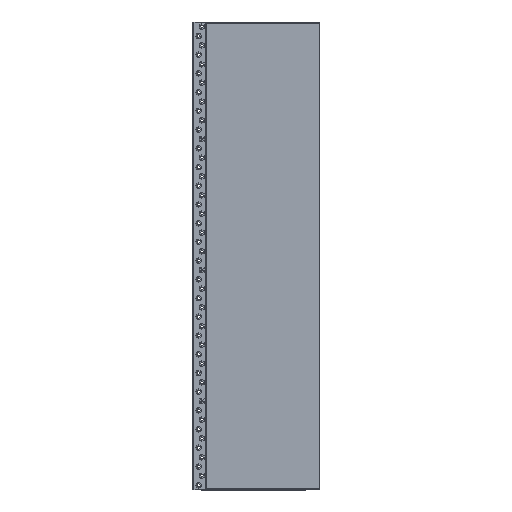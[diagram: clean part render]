
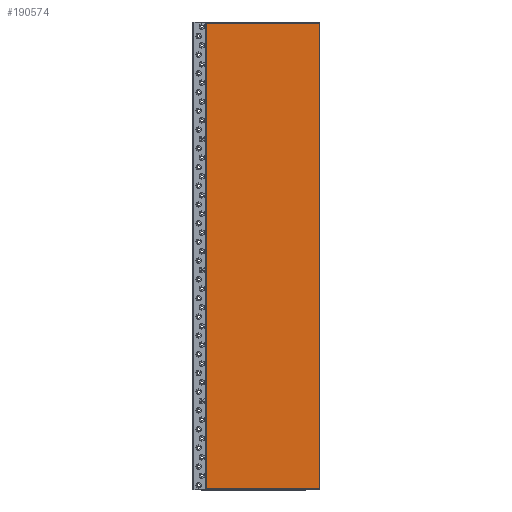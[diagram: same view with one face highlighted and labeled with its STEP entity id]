
A CAD part, top view. The second image highlights one B-rep face of the part: STEP entity #190574.
In plain terms, the highlighted planar face has unit normal (0, 0, 1).
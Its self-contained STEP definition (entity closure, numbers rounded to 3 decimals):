
#190260 = VERTEX_POINT('',#190261);
#190261 = CARTESIAN_POINT('',(8876.603,3003.,
    0.));
#190268 = PLANE('',#190269);
#190269 = AXIS2_PLACEMENT_3D('',#190270,#190271,#190272);
#190270 = CARTESIAN_POINT('',(8876.603,3003.,
    -25.));
#190271 = DIRECTION('',(0.,1.,0.));
#190272 = DIRECTION('',(1.,0.,0.));
#190280 = PLANE('',#190281);
#190281 = AXIS2_PLACEMENT_3D('',#190282,#190283,#190284);
#190282 = CARTESIAN_POINT('',(8876.603,3997.,
    -25.));
#190283 = DIRECTION('',(1.,0.,0.));
#190284 = DIRECTION('',(0.,-1.,0.));
#190292 = EDGE_CURVE('',#190260,#190293,#190295,.T.);
#190293 = VERTEX_POINT('',#190294);
#190294 = CARTESIAN_POINT('',(9118.103,3003.,
    0.));
#190295 = SURFACE_CURVE('',#190296,(#190300,#190307),.PCURVE_S1.);
#190296 = LINE('',#190297,#190298);
#190297 = CARTESIAN_POINT('',(8876.603,3003.,
    0.));
#190298 = VECTOR('',#190299,1.);
#190299 = DIRECTION('',(1.,0.,0.));
#190300 = PCURVE('',#190268,#190301);
#190301 = DEFINITIONAL_REPRESENTATION('',(#190302),#190306);
#190302 = LINE('',#190303,#190304);
#190303 = CARTESIAN_POINT('',(0.,-25.));
#190304 = VECTOR('',#190305,1.);
#190305 = DIRECTION('',(1.,0.));
#190306 = ( GEOMETRIC_REPRESENTATION_CONTEXT(2) 
PARAMETRIC_REPRESENTATION_CONTEXT() REPRESENTATION_CONTEXT('2D SPACE',''
  ) );
#190307 = PCURVE('',#190308,#190313);
#190308 = PLANE('',#190309);
#190309 = AXIS2_PLACEMENT_3D('',#190310,#190311,#190312);
#190310 = CARTESIAN_POINT('',(8997.353,3500.,
    0.));
#190311 = DIRECTION('',(0.,0.,1.));
#190312 = DIRECTION('',(1.,0.,0.));
#190313 = DEFINITIONAL_REPRESENTATION('',(#190314),#190318);
#190314 = LINE('',#190315,#190316);
#190315 = CARTESIAN_POINT('',(-120.75,-497.));
#190316 = VECTOR('',#190317,1.);
#190317 = DIRECTION('',(1.,0.));
#190318 = ( GEOMETRIC_REPRESENTATION_CONTEXT(2) 
PARAMETRIC_REPRESENTATION_CONTEXT() REPRESENTATION_CONTEXT('2D SPACE',''
  ) );
#190336 = PLANE('',#190337);
#190337 = AXIS2_PLACEMENT_3D('',#190338,#190339,#190340);
#190338 = CARTESIAN_POINT('',(9118.103,3003.,
    -25.));
#190339 = DIRECTION('',(-1.,0.,0.));
#190340 = DIRECTION('',(0.,1.,0.));
#190378 = EDGE_CURVE('',#190293,#190379,#190381,.T.);
#190379 = VERTEX_POINT('',#190380);
#190380 = CARTESIAN_POINT('',(9118.103,3997.,
    0.));
#190381 = SURFACE_CURVE('',#190382,(#190386,#190393),.PCURVE_S1.);
#190382 = LINE('',#190383,#190384);
#190383 = CARTESIAN_POINT('',(9118.103,3003.,
    0.));
#190384 = VECTOR('',#190385,1.);
#190385 = DIRECTION('',(0.,1.,0.));
#190386 = PCURVE('',#190336,#190387);
#190387 = DEFINITIONAL_REPRESENTATION('',(#190388),#190392);
#190388 = LINE('',#190389,#190390);
#190389 = CARTESIAN_POINT('',(0.,-25.));
#190390 = VECTOR('',#190391,1.);
#190391 = DIRECTION('',(1.,0.));
#190392 = ( GEOMETRIC_REPRESENTATION_CONTEXT(2) 
PARAMETRIC_REPRESENTATION_CONTEXT() REPRESENTATION_CONTEXT('2D SPACE',''
  ) );
#190393 = PCURVE('',#190308,#190394);
#190394 = DEFINITIONAL_REPRESENTATION('',(#190395),#190399);
#190395 = LINE('',#190396,#190397);
#190396 = CARTESIAN_POINT('',(120.75,-497.));
#190397 = VECTOR('',#190398,1.);
#190398 = DIRECTION('',(0.,1.));
#190399 = ( GEOMETRIC_REPRESENTATION_CONTEXT(2) 
PARAMETRIC_REPRESENTATION_CONTEXT() REPRESENTATION_CONTEXT('2D SPACE',''
  ) );
#190417 = PLANE('',#190418);
#190418 = AXIS2_PLACEMENT_3D('',#190419,#190420,#190421);
#190419 = CARTESIAN_POINT('',(9118.103,3997.,
    -25.));
#190420 = DIRECTION('',(0.,-1.,0.));
#190421 = DIRECTION('',(-1.,0.,0.));
#190454 = EDGE_CURVE('',#190379,#190455,#190457,.T.);
#190455 = VERTEX_POINT('',#190456);
#190456 = CARTESIAN_POINT('',(8876.603,3997.,
    0.));
#190457 = SURFACE_CURVE('',#190458,(#190462,#190469),.PCURVE_S1.);
#190458 = LINE('',#190459,#190460);
#190459 = CARTESIAN_POINT('',(9118.103,3997.,
    0.));
#190460 = VECTOR('',#190461,1.);
#190461 = DIRECTION('',(-1.,0.,0.));
#190462 = PCURVE('',#190417,#190463);
#190463 = DEFINITIONAL_REPRESENTATION('',(#190464),#190468);
#190464 = LINE('',#190465,#190466);
#190465 = CARTESIAN_POINT('',(0.,-25.));
#190466 = VECTOR('',#190467,1.);
#190467 = DIRECTION('',(1.,0.));
#190468 = ( GEOMETRIC_REPRESENTATION_CONTEXT(2) 
PARAMETRIC_REPRESENTATION_CONTEXT() REPRESENTATION_CONTEXT('2D SPACE',''
  ) );
#190469 = PCURVE('',#190308,#190470);
#190470 = DEFINITIONAL_REPRESENTATION('',(#190471),#190475);
#190471 = LINE('',#190472,#190473);
#190472 = CARTESIAN_POINT('',(120.75,497.));
#190473 = VECTOR('',#190474,1.);
#190474 = DIRECTION('',(-1.,0.));
#190475 = ( GEOMETRIC_REPRESENTATION_CONTEXT(2) 
PARAMETRIC_REPRESENTATION_CONTEXT() REPRESENTATION_CONTEXT('2D SPACE',''
  ) );
#190525 = EDGE_CURVE('',#190455,#190260,#190526,.T.);
#190526 = SURFACE_CURVE('',#190527,(#190531,#190538),.PCURVE_S1.);
#190527 = LINE('',#190528,#190529);
#190528 = CARTESIAN_POINT('',(8876.603,3997.,
    0.));
#190529 = VECTOR('',#190530,1.);
#190530 = DIRECTION('',(0.,-1.,0.));
#190531 = PCURVE('',#190280,#190532);
#190532 = DEFINITIONAL_REPRESENTATION('',(#190533),#190537);
#190533 = LINE('',#190534,#190535);
#190534 = CARTESIAN_POINT('',(0.,-25.));
#190535 = VECTOR('',#190536,1.);
#190536 = DIRECTION('',(1.,0.));
#190537 = ( GEOMETRIC_REPRESENTATION_CONTEXT(2) 
PARAMETRIC_REPRESENTATION_CONTEXT() REPRESENTATION_CONTEXT('2D SPACE',''
  ) );
#190538 = PCURVE('',#190308,#190539);
#190539 = DEFINITIONAL_REPRESENTATION('',(#190540),#190544);
#190540 = LINE('',#190541,#190542);
#190541 = CARTESIAN_POINT('',(-120.75,497.));
#190542 = VECTOR('',#190543,1.);
#190543 = DIRECTION('',(0.,-1.));
#190544 = ( GEOMETRIC_REPRESENTATION_CONTEXT(2) 
PARAMETRIC_REPRESENTATION_CONTEXT() REPRESENTATION_CONTEXT('2D SPACE',''
  ) );
#190574 = ADVANCED_FACE('',(#190575),#190308,.T.);
#190575 = FACE_BOUND('',#190576,.T.);
#190576 = EDGE_LOOP('',(#190577,#190578,#190579,#190580));
#190577 = ORIENTED_EDGE('',*,*,#190292,.T.);
#190578 = ORIENTED_EDGE('',*,*,#190378,.T.);
#190579 = ORIENTED_EDGE('',*,*,#190454,.T.);
#190580 = ORIENTED_EDGE('',*,*,#190525,.T.);
